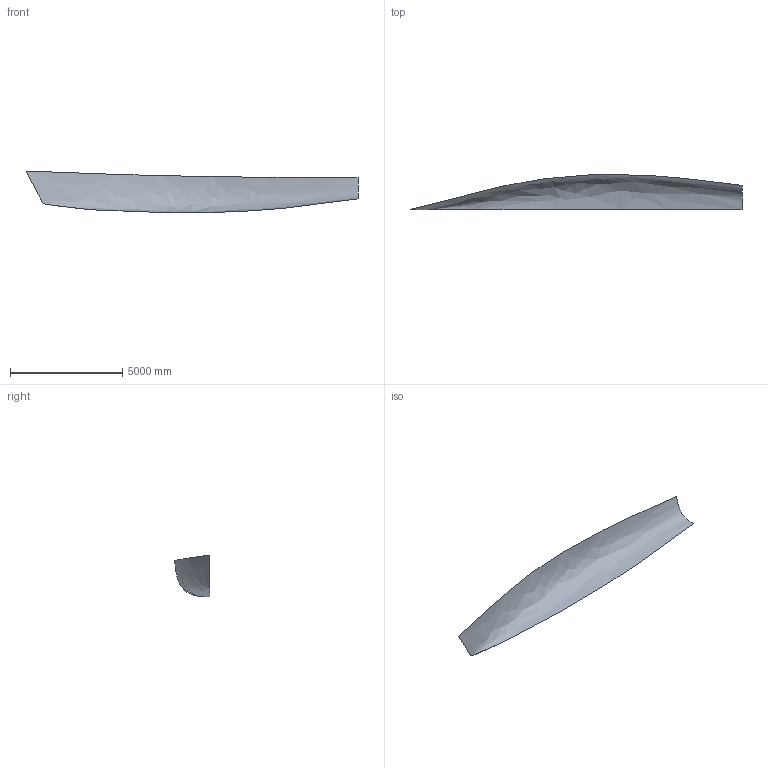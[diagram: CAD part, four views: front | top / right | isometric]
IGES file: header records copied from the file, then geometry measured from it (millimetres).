
Start section: DATA transfer to IGES file format           James R Teeters           17 Goodwin Street           Newport, RI 02840
Global section: file name: UssaM8.igs; author: Jim Teeters; organization: Newport RI; date: 951128.120000; units: metre
Bounding box: 14821.37 x 1566.41 x 1870.83 mm (x, y, z)
Surface area: 31911246.6 mm2 (no closed solid volume)
Topology: 0 solids, 0 shells, 1 faces, 4 edges, 4 vertices
Faces by surface type: bspline 1
